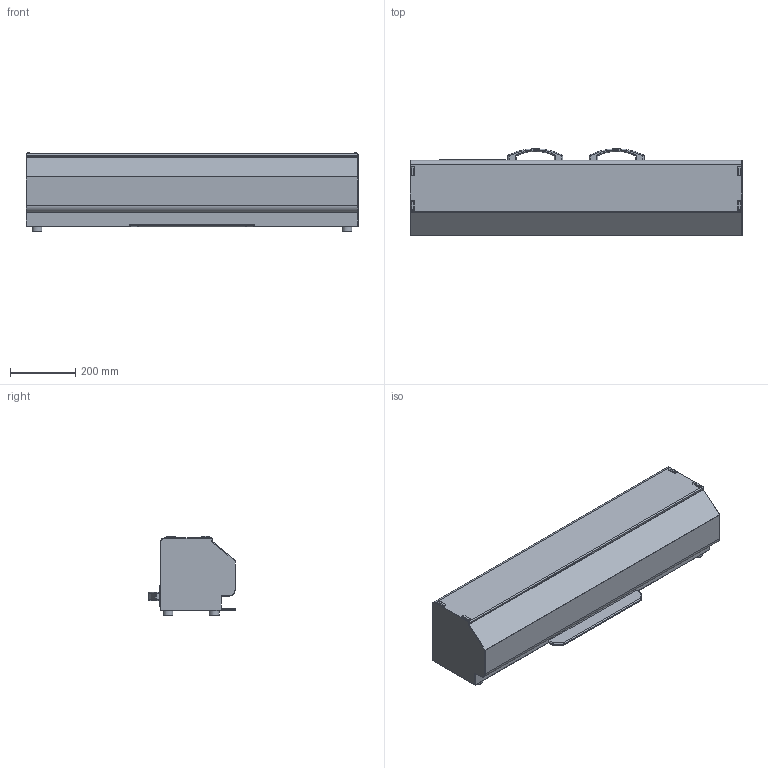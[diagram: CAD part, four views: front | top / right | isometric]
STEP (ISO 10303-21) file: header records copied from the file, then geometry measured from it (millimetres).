
FILE_DESCRIPTION(/* description */ ('Unknown'),/* implementation_level */ '2;1');
FILE_NAME(/* name */ '3D Robin CYC Slim',/* time_stamp */ '2024-02-29T10:54:54+01:00',/* author */ ('Unknown'),/* organization */ ('Unknown'),/* preprocessor_version */ 'ST-DEVELOPER v18.104',/* originating_system */ 'Solid Edge',/* authorisation */ 'Unknown');
FILE_SCHEMA (('AUTOMOTIVE_DESIGN {1 0 10303 214 3 1 1}'));
Length unit declared in the file: millimetre
Products named in the file (1): 3D Robin CYC Slim
Bounding box: 1019 x 266.15 x 242.5 mm (x, y, z)
Volume: 47537232.8 mm3; surface area: 1025089.9 mm2
Topology: 1 solids, 1 shells, 221 faces, 523 edges, 308 vertices
Faces by surface type: cylinder 83, plane 78, torus 30, cone 16, bspline 8, sphere 6
Full cylindrical faces by diameter (mm): 30 x4
Entity records: 6327 total; most frequent: CARTESIAN_POINT 1247, DIRECTION 1109, ORIENTED_EDGE 1010, EDGE_CURVE 505, AXIS2_PLACEMENT_3D 416, VERTEX_POINT 304, LINE 277, VECTOR 277
